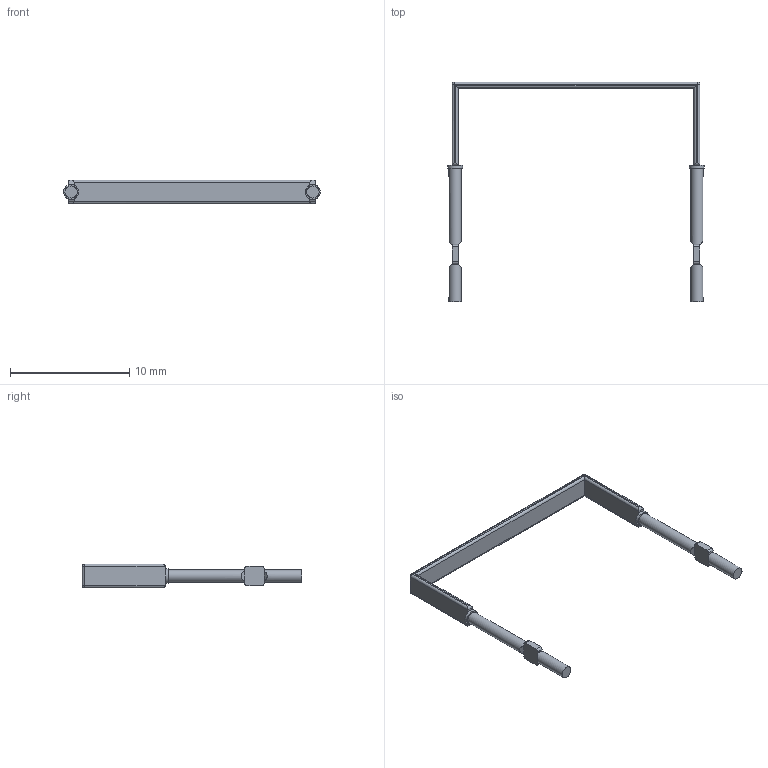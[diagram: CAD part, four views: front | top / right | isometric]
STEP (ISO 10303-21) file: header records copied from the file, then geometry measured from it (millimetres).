
FILE_DESCRIPTION(/* description */ (''),/* implementation_level */ '2;1');
FILE_NAME(/* name */ 'C:\Users\mulla\Documents\Work\SEI Models\Inventor Files\BR\BR5_stp.stp',/* time_stamp */ '2019-08-15T17:29:39-04:00',/* author */ ('mulla'),/* organization */ (''),/* preprocessor_version */ 'ST-DEVELOPER v16.1',/* originating_system */ 'Autodesk Inventor 2016',/* authorisation */ '');
FILE_SCHEMA (('AUTOMOTIVE_DESIGN { 1 0 10303 214 3 1 1 }'));
Length unit declared in the file: millimetre
Products named in the file (1): BR5
Bounding box: 21.57 x 18.48 x 2 mm (x, y, z)
Volume: 52.2 mm3; surface area: 244.2 mm2
Topology: 3 solids, 3 shells, 82 faces, 180 edges, 104 vertices
Faces by surface type: plane 46, cylinder 32, sphere 4
Full cylindrical faces by diameter (mm): 1.02 x4, 1.25 x2
Entity records: 2213 total; most frequent: DIRECTION 404, CARTESIAN_POINT 349, ORIENTED_EDGE 336, EDGE_CURVE 168, AXIS2_PLACEMENT_3D 153, LINE 98, VECTOR 98, VERTEX_POINT 98
